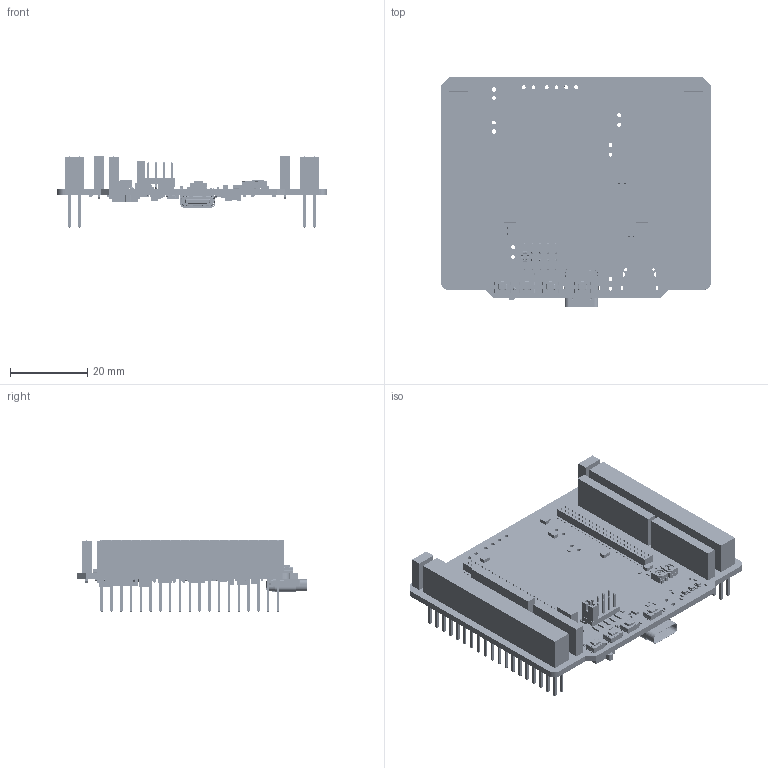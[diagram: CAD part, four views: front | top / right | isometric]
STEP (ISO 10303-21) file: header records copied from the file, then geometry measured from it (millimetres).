
FILE_DESCRIPTION(('Open CASCADE Model'),'2;1');
FILE_NAME('Open CASCADE Shape Model','2024-04-03T10:10:59',('Author'),( 'Open CASCADE'),'Open CASCADE STEP processor 7.5','Open CASCADE 7.5' ,'Unknown');
FILE_SCHEMA(('AUTOMOTIVE_DESIGN { 1 0 10303 214 1 1 1 1 }'));
Length unit declared in the file: millimetre
Products named in the file (359): PCB; Board; Open CASCADE STEP translator 7.5 1.1.1; U19; 0201; 6879254400; Extruded; U18; 6878454704; U17; U16; SB33; R0402; 6878453824; SB30; SB29; U15; User Library-User Library-DHVQFN 16-1; 6878132384; Cylinder; 6878132224; R67; 6878463504; R66; R65; R64; R63; R62; R61; C61; C0402; C60; SB3; SB21; SB28; X1; NX2016; 6878129984; 6878129824; U14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
Assembly tree (914 placements, depth 4):
  PCB
    Board
      Open CASCADE STEP translator 7.5 1.1.1
    U19
      0201
      6879254400
        Extruded
    U18
      0201
      6878454704
        Extruded
    U17
      0201
      6878454704
        Extruded
    U16
      0201
      6878454704
        Extruded
    SB33
      R0402
      6878453824
        Extruded
    SB30
      R0402
      6878453824
        Extruded
    SB29
      R0402
      6878453824
        Extruded
    U15
      User Library-User Library-DHVQFN 16-1
      6878132384
        Cylinder
      6878132224
        Extruded
    R67
      R0402
      6878463504
        Extruded
    R66
      R0402
      6878463504
        Extruded
    R65
      R0402
      6878463504
        Extruded
    R64
      R0402
      6878463504
        Extruded
    R63
      R0402
      6878463504
        Extruded
    R62
      R0402
      6878463504
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Bounding box: 70.1 x 59.45 x 18.67 mm (x, y, z)
Volume: 16917.2 mm3; surface area: 30359.6 mm2
Topology: 879 solids, 900 shells, 39451 faces, 94375 edges, 54110 vertices
Faces by surface type: plane 17363, cylinder 11130, bspline 5395, sphere 4294, torus 803, revolution 362, cone 104
Full cylindrical faces by diameter (mm): 0.2 x4, 0.3 x1, 0.4 x4, 0.5 x1, 0.65 x2, 0.9 x2, 0.97 x2, 1 x96, 1.1 x32, 1.19 x2
Entity records: 332554 total; most frequent: CARTESIAN_POINT 58709, ORIENTED_EDGE 46220, DIRECTION 44779, EDGE_CURVE 23111, LINE 19399, VECTOR 19399, VERTEX_POINT 14731, AXIS2_PLACEMENT_3D 12685
